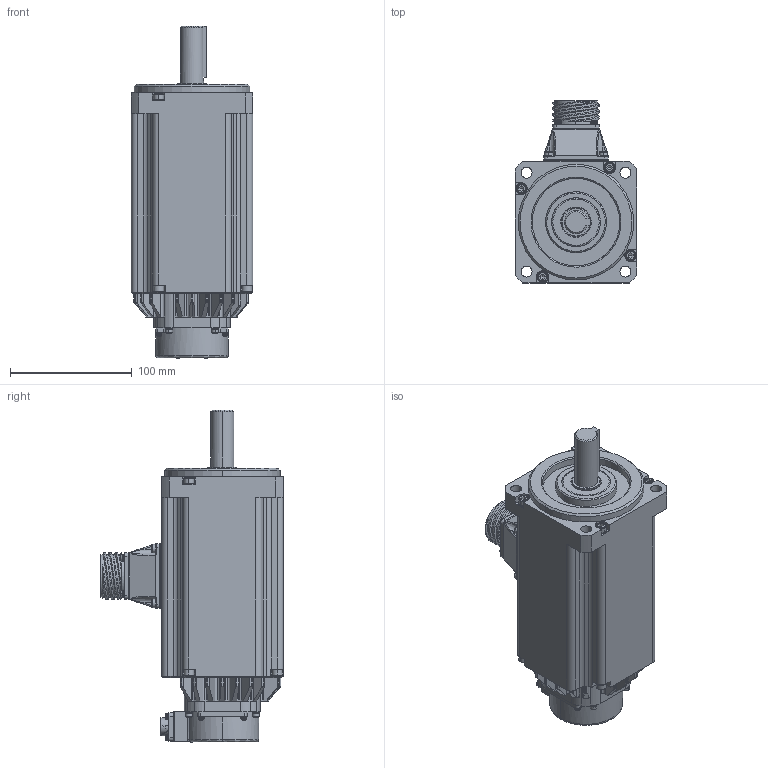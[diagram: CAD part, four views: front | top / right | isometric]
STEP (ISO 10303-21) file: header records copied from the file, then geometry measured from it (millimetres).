
FILE_DESCRIPTION (( 'STEP AP203' ), '1' );
FILE_NAME ('TSM3409N7371E731‘•”z.STEP', '2018-06-23T11:49:03', ( '' ), ( '' ), 'SwSTEP 2.0', 'SolidWorks 2017', '' );
FILE_SCHEMA (( 'CONFIG_CONTROL_DESIGN' ));
Products named in the file (2): Part7^Assem3; TSM3409N7371E731装配
Assembly tree (1 placements, depth 2):
  TSM3409N7371E731装配
    Part7^Assem3
Bounding box: 100 x 150 x 273 mm (x, y, z)
Volume: 1755297.6 mm3; surface area: 142717.4 mm2
Topology: 1 solids, 22 shells, 1804 faces, 4907 edges, 3211 vertices
Faces by surface type: plane 734, cylinder 563, bspline 337, cone 158, torus 8, sphere 4
Entity records: 87554 total; most frequent: CARTESIAN_POINT 46732, ORIENTED_EDGE 9692, DIRECTION 6359, EDGE_CURVE 4846, VERTEX_POINT 3211, VECTOR 2347, LINE 2347, AXIS2_PLACEMENT_3D 2006
